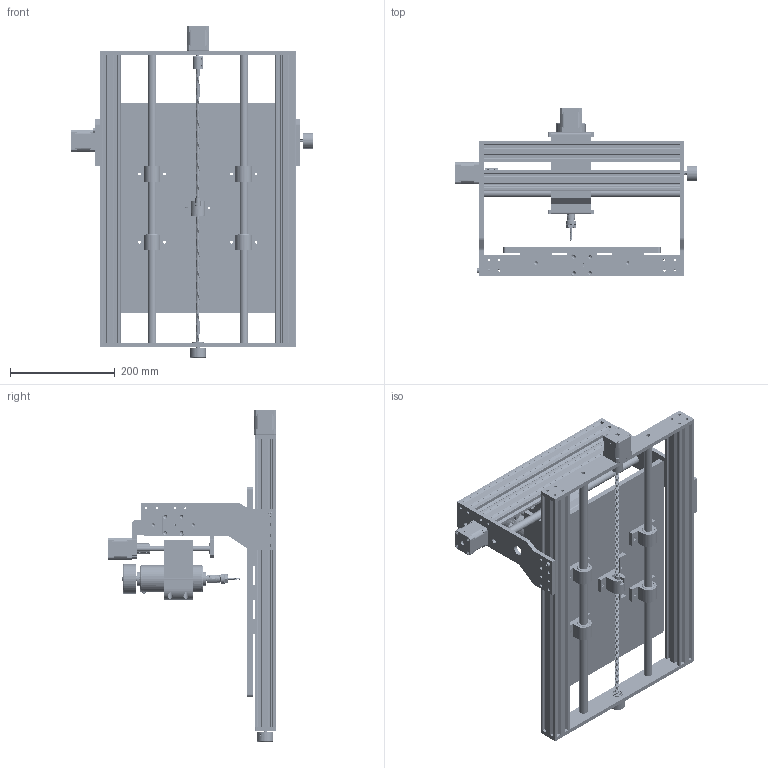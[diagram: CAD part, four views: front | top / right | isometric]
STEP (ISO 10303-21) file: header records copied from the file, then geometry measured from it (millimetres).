
FILE_DESCRIPTION(/* description */ ('STEP AP214'),/* implementation_level */ '2;1');
FILE_NAME(/* name */ 'CNC 3040 Pro Max Metal simple.stp',/* time_stamp */ '2024-10-18T09:27:42+02:00',/* author */ ('Ryzen5700u'),/* organization */ (''),/* preprocessor_version */ 'ST-DEVELOPER v20',/* originating_system */ 'Autodesk Inventor 2025',/* authorisation */ '');
FILE_SCHEMA (('AUTOMOTIVE_DESIGN { 1 0 10303 214 3 1 1 }'));
Products named in the file (41): CNC 3040 Pro Max Metal simple; front plate; V-Slot 40x40_Demo; V-Slot 20x40_Demo; right plate; Unnamed; Body008; Cut002; SPINDLE_500W; COOLER_SPINDLE_500W; CORPO_SPINDLE_500W; EIXO_SPINDLE_500W; BASE_ER11; PORCA_ER11; barra_16mm_612mm; barra_16mm_458mm; manopola; Linear motion bearing LBP 162430 GB/T 16940; BARRA FILETTATA T12 470mm p2mm 1P; BARRA FILETTATA T12 620mm p2mm 1P copy; PIANO_LAVORO 400X300; left plate; back plate; AS 1420 - 1973 - M5 x 25; blocco_motore_1_52mm; blocco_motore_2_52mm; barre_10mm; supporto_blocco_motore_52mm; BARRA FILETTATA T8 asse Z; blocco_asse_x; blocco_asse_x_top; Nema_17_PHB42S48-401; blocco_asse_x_bottom; %3% BS 290 - SKF 608; GIUNTO 12-5; Linear motion bearing LBP 101726 GB/T 16940; cuscinetto_asse_y; guida_T8_asse_y; Original - Trapezgewindemutter; dado T8 smussato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
Assembly tree (69 placements, depth 3):
  CNC 3040 Pro Max Metal simple
    front plate
    V-Slot 40x40_Demo  x2
    V-Slot 20x40_Demo  x2
    right plate
    Nema_17_PHB42S48-401  x3
    Unnamed
      Body008
      Cut002
    SPINDLE_500W
      COOLER_SPINDLE_500W
      CORPO_SPINDLE_500W
      EIXO_SPINDLE_500W
      BASE_ER11
      PORCA_ER11
    manopola  x2
    barra_16mm_612mm  x2
    barra_16mm_458mm  x2
    Linear motion bearing LBP 162430 GB/T 16940  x8
    %3% BS 290 - SKF 608  x3
    BARRA FILETTATA T12 470mm p2mm 1P
    BARRA FILETTATA T12 620mm p2mm 1P copy
    PIANO_LAVORO 400X300
    GIUNTO 12-5  x3
    left plate
    back plate
    AS 1420 - 1973 - M5 x 25
    blocco_motore_1_52mm
    blocco_motore_2_52mm
    barre_10mm  x2
    supporto_blocco_motore_52mm
    BARRA FILETTATA T8 asse Z
    Original - Trapezgewindemutter  x3
    blocco_asse_x
    blocco_asse_x_top
    blocco_asse_x_bottom
    dado T8 smussato  x3
    Linear motion bearing LBP 101726 GB/T 16940  x4
    cuscinetto_asse_y  x4
    guida_T8_asse_y
    sistema_finecorsa_y
Bounding box: 462.6 x 321.36 x 633.1 mm (x, y, z)
Volume: 4139040 mm3; surface area: 1737973.8 mm2
Topology: 191 solids, 191 shells, 4151 faces, 12163 edges, 8099 vertices
Faces by surface type: cylinder 1954, plane 1390, torus 263, sphere 231, bspline 182, cone 131
Full cylindrical faces by diameter (mm): 0.98 x2, 1 x2, 2.5 x14, 2.98 x2, 3 x14, 3.175 x2, 3.2 x14, 3.242 x18, 3.4 x4, 3.5 x6, 4.134 x4, 4.2 x4, 4.6 x8, 5 x9, 5.3 x10, 5.4 x2, 5.5 x346, 6 x3, 6.647 x14, 7 x31, 8 x389, 8.2 x4, 8.4 x6, 8.5 x1, 8.77 x1, 9 x12, 9.8 x1, 10 x39, 10.4 x4, 10.795 x6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
Entity records: 176922 total; most frequent: CARTESIAN_POINT 107804, ORIENTED_EDGE 15428, DIRECTION 11670, EDGE_CURVE 7714, VERTEX_POINT 5219, AXIS2_PLACEMENT_3D 4071, LINE 3528, VECTOR 3528
